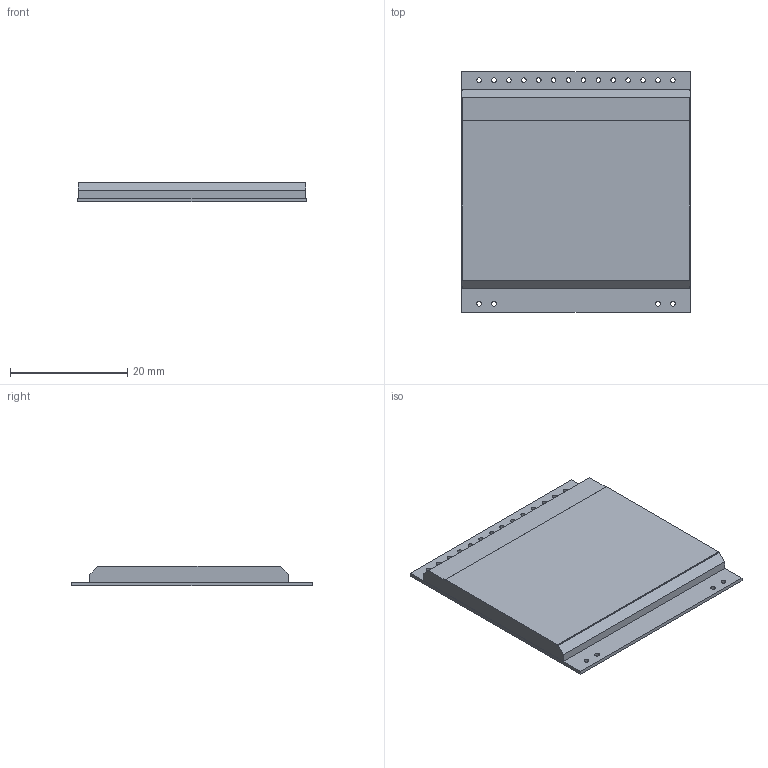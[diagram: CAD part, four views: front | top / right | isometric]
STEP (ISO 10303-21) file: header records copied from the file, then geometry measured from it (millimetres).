
FILE_DESCRIPTION((''),'2;1');
FILE_NAME('LED39X41','2010-04-13T',('Martin'),(''),'PRO/ENGINEER BY PARAMETRIC TECHNOLOGY CORPORATION, 2008380','PRO/ENGINEER BY PARAMETRIC TECHNOLOGY CORPORATION, 2008380','');
FILE_SCHEMA(('AUTOMOTIVE_DESIGN { 1 0 10303 214 1 1 1 1 }'));
Length unit declared in the file: millimetre
Products named in the file (1): LED39X41
Bounding box: 39 x 41 x 3.4 mm (x, y, z)
Volume: 4534.8 mm3; surface area: 3645.8 mm2
Topology: 1 solids, 1 shells, 53 faces, 150 edges, 100 vertices
Faces by surface type: cylinder 36, plane 17
Entity records: 1914 total; most frequent: DIRECTION 328, CARTESIAN_POINT 304, ORIENTED_EDGE 300, EDGE_CURVE 150, AXIS2_PLACEMENT_3D 125, VERTEX_POINT 100, EDGE_LOOP 90, VECTOR 78
